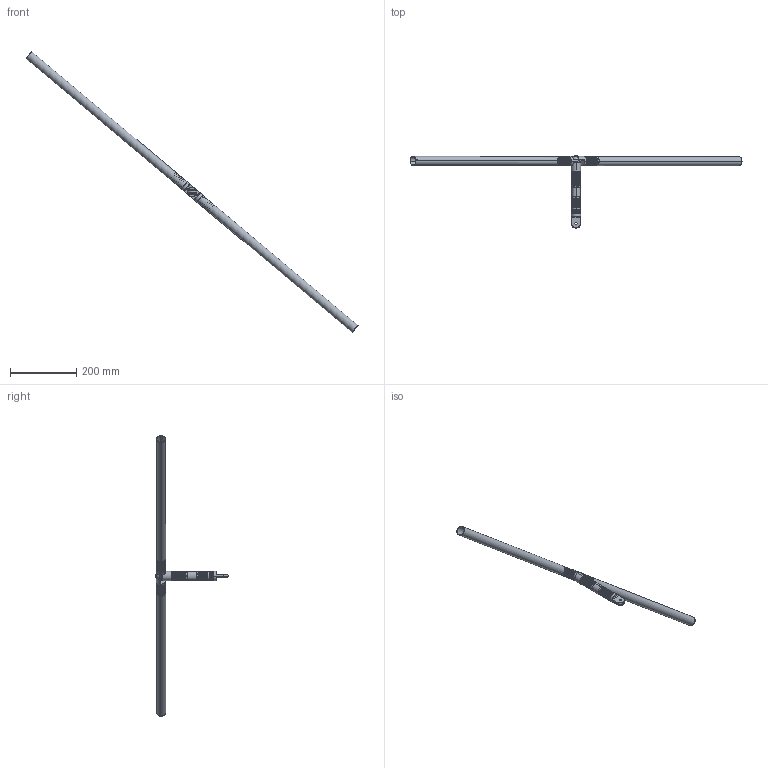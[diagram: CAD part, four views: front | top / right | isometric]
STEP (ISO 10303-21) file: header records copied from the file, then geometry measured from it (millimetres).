
FILE_DESCRIPTION (( 'STEP AP214' ), '1' );
FILE_NAME ('Single Sided Clevis to Male Clevis to Threaded End Connector and Male Clevis Connector.STEP', '2013-08-19T15:22:45', ( 'ydmin' ), ( 'Microsoft' ), 'SwSTEP 2.0', 'SolidWorks 2013', '' );
FILE_SCHEMA (( 'AUTOMOTIVE_DESIGN' ));
Length unit declared in the file: inch
Products named in the file (7): 91255A542_91255A542; 6.000 Inch Tube; Shorter Tube; DRP-002-0511-00_LEFT-TO-RIGHT OUTER TUBE INSERT; DRP-002-0513-00_FLAT END WITH THREADED HOLE; DRP-002-0509-00_MALE YOKE TUBE INSERT; Single Sided Clevis to Male Clevis to Threaded End Connector and Male Clevis Connector
Assembly tree (8 placements, depth 2):
  Single Sided Clevis to Male Clevis to Threaded End Connector and Male Clevis Connector
    DRP-002-0509-00_MALE YOKE TUBE INSERT  x2
    DRP-002-0513-00_FLAT END WITH THREADED HOLE
    DRP-002-0511-00_LEFT-TO-RIGHT OUTER TUBE INSERT
    Shorter Tube
    6.000 Inch Tube  x2
    91255A542_91255A542
Bounding box: 998.91 x 218.12 x 844.4 mm (x, y, z)
Volume: 198526 mm3; surface area: 274578.6 mm2
Topology: 8 solids, 8 shells, 1104 faces, 3074 edges, 1985 vertices
Faces by surface type: cylinder 516, plane 446, cone 103, torus 32, sphere 7
Entity records: 30701 total; most frequent: CARTESIAN_POINT 7755, DIRECTION 4875, ORIENTED_EDGE 4784, EDGE_CURVE 2392, AXIS2_PLACEMENT_3D 1745, VERTEX_POINT 1535, VECTOR 1385, LINE 1385
